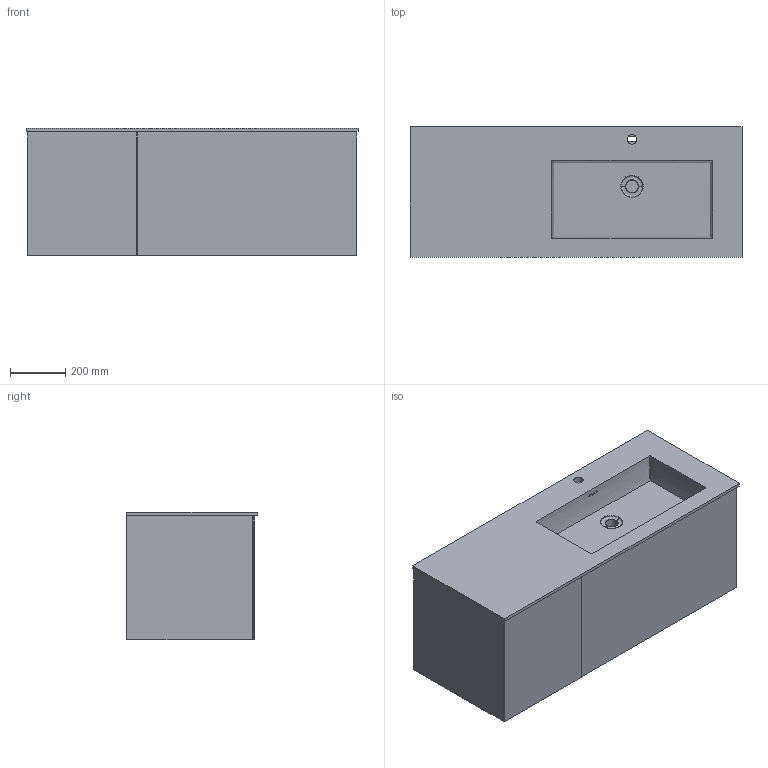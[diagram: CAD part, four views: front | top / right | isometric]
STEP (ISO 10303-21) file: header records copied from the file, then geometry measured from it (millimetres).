
FILE_DESCRIPTION (( 'STEP AP214' ), '1' );
FILE_NAME ('blanche-1200.STEP', '2020-07-02T06:09:28', ( '' ), ( '' ), 'SwSTEP 2.0', 'SolidWorks 2020', '' );
FILE_SCHEMA (( 'AUTOMOTIVE_DESIGN' ));
Length unit declared in the file: millimetre
Products named in the file (6): 1424536456-1; blanche-1200-1; 21425364-1; rwqerqwrqgwgffewrqwreq-1; blanche-1200; 1-12
Assembly tree (5 placements, depth 2):
  blanche-1200
    rwqerqwrqgwgffewrqwreq-1
    1-12
    1424536456-1
    21425364-1
    blanche-1200-1
Bounding box: 1200 x 470 x 462 mm (x, y, z)
Volume: 56251354.4 mm3; surface area: 8023049.9 mm2
Topology: 33 solids, 33 shells, 274 faces, 596 edges, 394 vertices
Faces by surface type: plane 224, bspline 26, cylinder 24
Entity records: 10071 total; most frequent: CARTESIAN_POINT 3708, ORIENTED_EDGE 1192, DIRECTION 1082, EDGE_CURVE 596, LINE 498, VECTOR 498, VERTEX_POINT 394, AXIS2_PLACEMENT_3D 292
